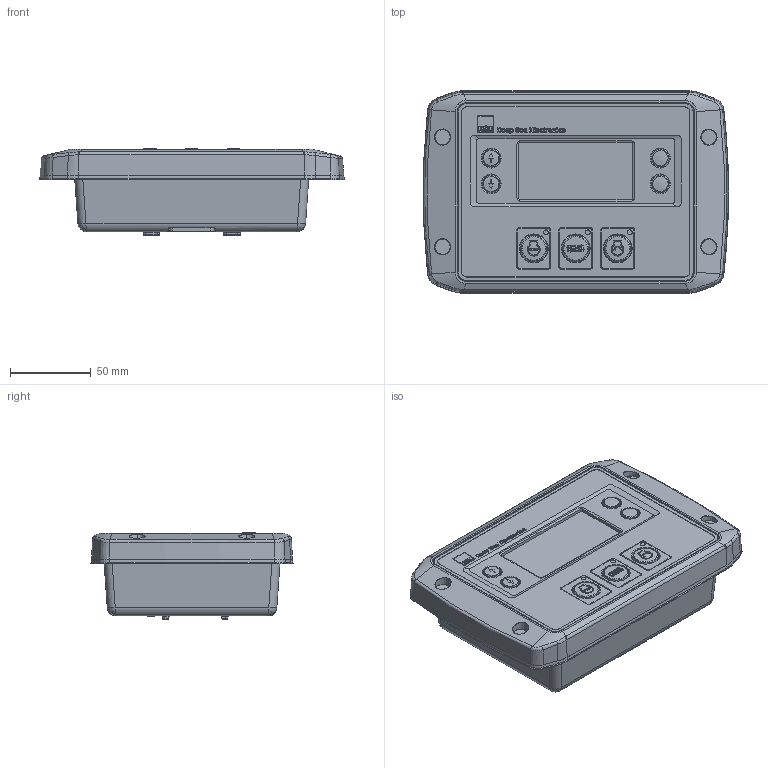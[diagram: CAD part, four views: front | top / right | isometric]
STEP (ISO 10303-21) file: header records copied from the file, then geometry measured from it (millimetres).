
FILE_DESCRIPTION (( 'STEP AP203' ), '1' );
FILE_NAME ('E400 Solid Model.STEP', '2015-04-16T15:21:49', ( '' ), ( '' ), 'SwSTEP 2.0', 'SolidWorks 2015', '' );
FILE_SCHEMA (( 'CONFIG_CONTROL_DESIGN' ));
Products named in the file (1): E400 Solid Model
Bounding box: 189.06 x 125.39 x 53.66 mm (x, y, z)
Volume: 838583.4 mm3; surface area: 122086.5 mm2
Topology: 1 solids, 8 shells, 1431 faces, 3678 edges, 2391 vertices
Faces by surface type: plane 391, cylinder 356, cone 242, bspline 202, torus 180, sphere 60
Entity records: 58740 total; most frequent: CARTESIAN_POINT 25229, ORIENTED_EDGE 7332, DIRECTION 6653, EDGE_CURVE 3666, AXIS2_PLACEMENT_3D 2591, VERTEX_POINT 2391, EDGE_LOOP 1573, VECTOR 1471
